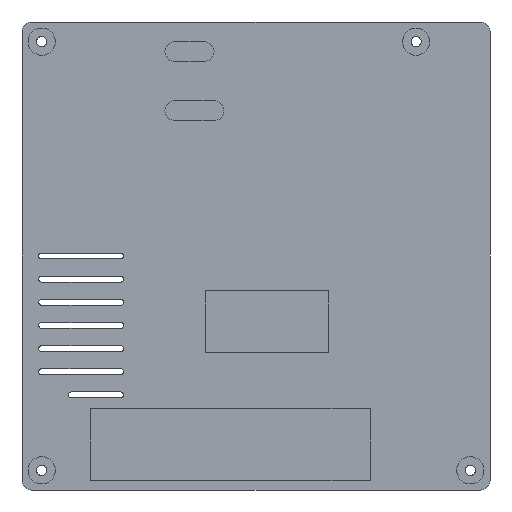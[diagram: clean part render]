
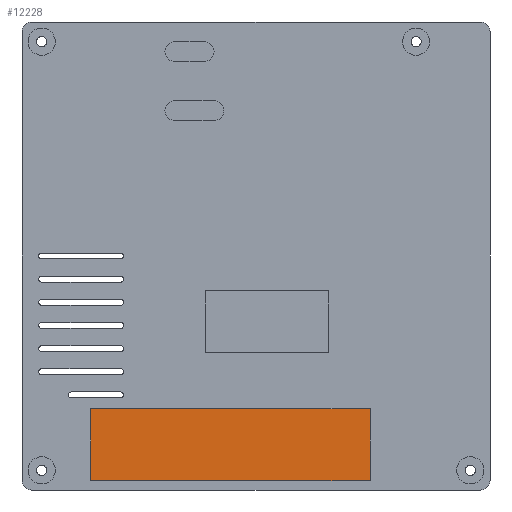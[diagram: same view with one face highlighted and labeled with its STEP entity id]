
A CAD part, front view. The second image highlights one B-rep face of the part: STEP entity #12228.
In plain terms, the highlighted planar face has unit normal (0, -1, 0).
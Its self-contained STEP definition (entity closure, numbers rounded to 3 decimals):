
#145 = ORIENTED_EDGE ( 'NONE', *, *, #14337, .T. ) ;
#373 = VECTOR ( 'NONE', #27852, 1000. ) ;
#609 = DIRECTION ( 'NONE',  ( 0., 0., -1. ) ) ;
#709 = VECTOR ( 'NONE', #15219, 1000. ) ;
#1114 = DIRECTION ( 'NONE',  ( 0., -1., 0. ) ) ;
#1419 = LINE ( 'NONE', #17210, #373 ) ;
#4731 = AXIS2_PLACEMENT_3D ( 'NONE', #29611, #1114, #609 ) ;
#6111 = VECTOR ( 'NONE', #32668, 1000. ) ;
#6316 = PLANE ( 'NONE',  #4731 ) ;
#8892 = EDGE_CURVE ( 'NONE', #28352, #15633, #1419, .T. ) ;
#9847 = ORIENTED_EDGE ( 'NONE', *, *, #8892, .T. ) ;
#10930 = CARTESIAN_POINT ( 'NONE',  ( 13.95, 1.7, -93.075 ) ) ;
#12108 = LINE ( 'NONE', #28447, #709 ) ;
#12130 = EDGE_LOOP ( 'NONE', ( #22571, #145, #9847, #13108 ) ) ;
#12214 = VECTOR ( 'NONE', #13911, 1000. ) ;
#12228 = ADVANCED_FACE ( 'NONE', ( #16218 ), #6316, .T. ) ;
#13108 = ORIENTED_EDGE ( 'NONE', *, *, #31042, .T. ) ;
#13911 = DIRECTION ( 'NONE',  ( 0., 0., 1. ) ) ;
#14337 = EDGE_CURVE ( 'NONE', #15504, #28352, #16137, .T. ) ;
#15219 = DIRECTION ( 'NONE',  ( -1., 0., 0. ) ) ;
#15504 = VERTEX_POINT ( 'NONE', #22556 ) ;
#15633 = VERTEX_POINT ( 'NONE', #23942 ) ;
#15980 = LINE ( 'NONE', #21382, #12214 ) ;
#16137 = LINE ( 'NONE', #19261, #6111 ) ;
#16218 = FACE_OUTER_BOUND ( 'NONE', #12130, .T. ) ;
#17210 = CARTESIAN_POINT ( 'NONE',  ( 13.95, 1.7, -93.075 ) ) ;
#18352 = EDGE_CURVE ( 'NONE', #21449, #15504, #12108, .T. ) ;
#19261 = CARTESIAN_POINT ( 'NONE',  ( 13.95, 1.7, -93.075 ) ) ;
#21382 = CARTESIAN_POINT ( 'NONE',  ( 70.65, 1.7, -93.075 ) ) ;
#21449 = VERTEX_POINT ( 'NONE', #23397 ) ;
#22556 = CARTESIAN_POINT ( 'NONE',  ( 13.95, 1.7, -78.475 ) ) ;
#22571 = ORIENTED_EDGE ( 'NONE', *, *, #18352, .T. ) ;
#23397 = CARTESIAN_POINT ( 'NONE',  ( 70.65, 1.7, -78.475 ) ) ;
#23942 = CARTESIAN_POINT ( 'NONE',  ( 70.65, 1.7, -93.075 ) ) ;
#27852 = DIRECTION ( 'NONE',  ( 1., 0., 0. ) ) ;
#28352 = VERTEX_POINT ( 'NONE', #10930 ) ;
#28447 = CARTESIAN_POINT ( 'NONE',  ( 13.95, 1.7, -78.475 ) ) ;
#29611 = CARTESIAN_POINT ( 'NONE',  ( 0., 1.7, 0. ) ) ;
#31042 = EDGE_CURVE ( 'NONE', #15633, #21449, #15980, .T. ) ;
#32668 = DIRECTION ( 'NONE',  ( 0., 0., -1. ) ) ;
